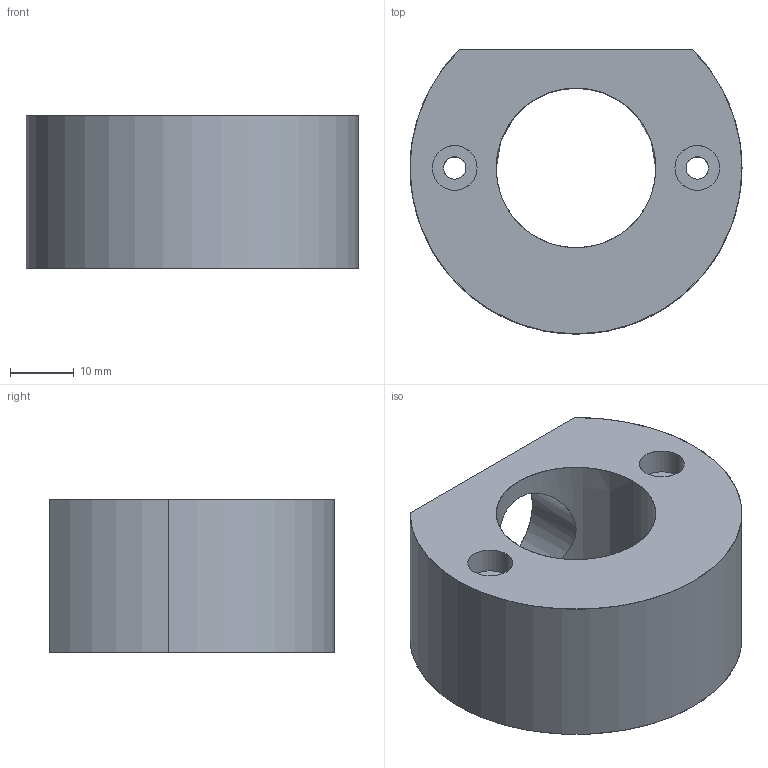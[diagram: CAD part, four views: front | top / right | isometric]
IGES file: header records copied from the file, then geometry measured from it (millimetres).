
Start section: SolidWorks IGES file using analytic representation for surfaces
Global section: file name: Y:\5.更新分\2023年対応\0405_諸々微修正分\QCPSC1036-25\qcpsc1036-25.IGS; native system: SolidWorks 2021; preprocessor: SolidWorks 2021; author: ImaoCorp; date: 230407.105410; units: millimetre
Bounding box: 52 x 44.5 x 24 mm (x, y, z)
Surface area: 9208.7 mm2 (no closed solid volume)
Topology: 0 solids, 0 shells, 26 faces, 740 edges, 740 vertices
Faces by surface type: revolution 19, bspline 7
